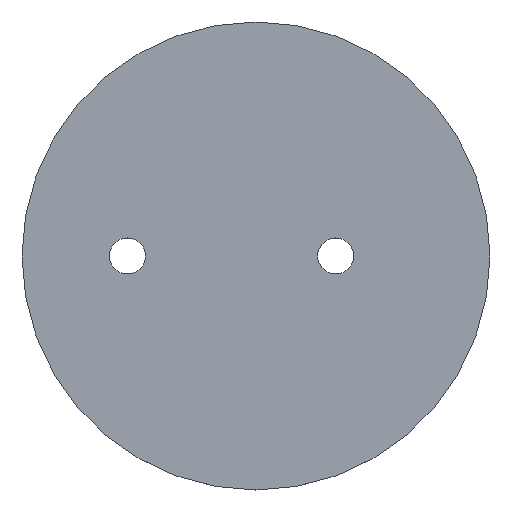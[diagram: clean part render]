
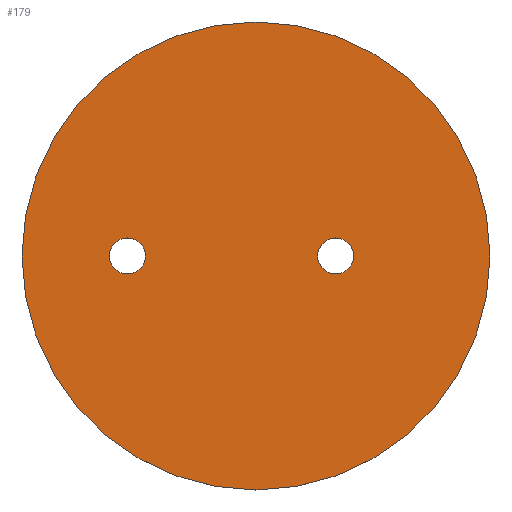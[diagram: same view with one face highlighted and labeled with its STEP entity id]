
A CAD part, top view. The second image highlights one B-rep face of the part: STEP entity #179.
In plain terms, the highlighted planar face has unit normal (0, 0, 1).
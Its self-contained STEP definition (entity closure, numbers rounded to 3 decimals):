
#24 = VERTEX_POINT('',#25);
#25 = CARTESIAN_POINT('',(45.5,0.,288.));
#32 = CYLINDRICAL_SURFACE('',#33,45.5);
#33 = AXIS2_PLACEMENT_3D('',#34,#35,#36);
#34 = CARTESIAN_POINT('',(0.,0.,287.));
#35 = DIRECTION('',(-0.,-0.,-1.));
#36 = DIRECTION('',(1.,0.,0.));
#51 = EDGE_CURVE('',#24,#24,#52,.T.);
#52 = SURFACE_CURVE('',#53,(#58,#65),.PCURVE_S1.);
#53 = CIRCLE('',#54,45.5);
#54 = AXIS2_PLACEMENT_3D('',#55,#56,#57);
#55 = CARTESIAN_POINT('',(0.,0.,288.));
#56 = DIRECTION('',(0.,0.,1.));
#57 = DIRECTION('',(1.,0.,0.));
#58 = PCURVE('',#32,#59);
#59 = DEFINITIONAL_REPRESENTATION('',(#60),#64);
#60 = LINE('',#61,#62);
#61 = CARTESIAN_POINT('',(-0.,-1.));
#62 = VECTOR('',#63,1.);
#63 = DIRECTION('',(-1.,0.));
#64 = ( GEOMETRIC_REPRESENTATION_CONTEXT(2) 
PARAMETRIC_REPRESENTATION_CONTEXT() REPRESENTATION_CONTEXT('2D SPACE',''
  ) );
#65 = PCURVE('',#66,#71);
#66 = PLANE('',#67);
#67 = AXIS2_PLACEMENT_3D('',#68,#69,#70);
#68 = CARTESIAN_POINT('',(0.,0.,288.));
#69 = DIRECTION('',(0.,0.,1.));
#70 = DIRECTION('',(1.,0.,-0.));
#71 = DEFINITIONAL_REPRESENTATION('',(#72),#76);
#72 = CIRCLE('',#73,45.5);
#73 = AXIS2_PLACEMENT_2D('',#74,#75);
#74 = CARTESIAN_POINT('',(0.,0.));
#75 = DIRECTION('',(1.,0.));
#76 = ( GEOMETRIC_REPRESENTATION_CONTEXT(2) 
PARAMETRIC_REPRESENTATION_CONTEXT() REPRESENTATION_CONTEXT('2D SPACE',''
  ) );
#133 = CYLINDRICAL_SURFACE('',#134,3.5);
#134 = AXIS2_PLACEMENT_3D('',#135,#136,#137);
#135 = CARTESIAN_POINT('',(-25.,0.,286.));
#136 = DIRECTION('',(-0.,-0.,-1.));
#137 = DIRECTION('',(1.,0.,0.));
#168 = CYLINDRICAL_SURFACE('',#169,3.5);
#169 = AXIS2_PLACEMENT_3D('',#170,#171,#172);
#170 = CARTESIAN_POINT('',(15.5,0.,286.));
#171 = DIRECTION('',(-0.,-0.,-1.));
#172 = DIRECTION('',(1.,0.,0.));
#179 = ADVANCED_FACE('',(#180,#183,#213),#66,.T.);
#180 = FACE_BOUND('',#181,.T.);
#181 = EDGE_LOOP('',(#182));
#182 = ORIENTED_EDGE('',*,*,#51,.T.);
#183 = FACE_BOUND('',#184,.T.);
#184 = EDGE_LOOP('',(#185));
#185 = ORIENTED_EDGE('',*,*,#186,.T.);
#186 = EDGE_CURVE('',#187,#187,#189,.T.);
#187 = VERTEX_POINT('',#188);
#188 = CARTESIAN_POINT('',(-21.5,0.,288.));
#189 = SURFACE_CURVE('',#190,(#195,#206),.PCURVE_S1.);
#190 = CIRCLE('',#191,3.5);
#191 = AXIS2_PLACEMENT_3D('',#192,#193,#194);
#192 = CARTESIAN_POINT('',(-25.,0.,288.));
#193 = DIRECTION('',(0.,0.,-1.));
#194 = DIRECTION('',(1.,0.,0.));
#195 = PCURVE('',#66,#196);
#196 = DEFINITIONAL_REPRESENTATION('',(#197),#205);
#197 = ( BOUNDED_CURVE() B_SPLINE_CURVE(2,(#198,#199,#200,#201,#202,#203
,#204),.UNSPECIFIED.,.T.,.F.) B_SPLINE_CURVE_WITH_KNOTS((1,2,2,2,2,1),(
    -2.094,0.,2.094,4.189,6.283,
8.378),.UNSPECIFIED.) CURVE() GEOMETRIC_REPRESENTATION_ITEM() 
RATIONAL_B_SPLINE_CURVE((1.,0.5,1.,0.5,1.,0.5,1.)) REPRESENTATION_ITEM(
  '') );
#198 = CARTESIAN_POINT('',(-21.5,0.));
#199 = CARTESIAN_POINT('',(-21.5,-6.062));
#200 = CARTESIAN_POINT('',(-26.75,-3.031));
#201 = CARTESIAN_POINT('',(-32.,0.));
#202 = CARTESIAN_POINT('',(-26.75,3.031));
#203 = CARTESIAN_POINT('',(-21.5,6.062));
#204 = CARTESIAN_POINT('',(-21.5,0.));
#205 = ( GEOMETRIC_REPRESENTATION_CONTEXT(2) 
PARAMETRIC_REPRESENTATION_CONTEXT() REPRESENTATION_CONTEXT('2D SPACE',''
  ) );
#206 = PCURVE('',#133,#207);
#207 = DEFINITIONAL_REPRESENTATION('',(#208),#212);
#208 = LINE('',#209,#210);
#209 = CARTESIAN_POINT('',(-6.283,-2.));
#210 = VECTOR('',#211,1.);
#211 = DIRECTION('',(1.,-0.));
#212 = ( GEOMETRIC_REPRESENTATION_CONTEXT(2) 
PARAMETRIC_REPRESENTATION_CONTEXT() REPRESENTATION_CONTEXT('2D SPACE',''
  ) );
#213 = FACE_BOUND('',#214,.T.);
#214 = EDGE_LOOP('',(#215));
#215 = ORIENTED_EDGE('',*,*,#216,.T.);
#216 = EDGE_CURVE('',#217,#217,#219,.T.);
#217 = VERTEX_POINT('',#218);
#218 = CARTESIAN_POINT('',(19.,0.,288.));
#219 = SURFACE_CURVE('',#220,(#225,#236),.PCURVE_S1.);
#220 = CIRCLE('',#221,3.5);
#221 = AXIS2_PLACEMENT_3D('',#222,#223,#224);
#222 = CARTESIAN_POINT('',(15.5,0.,288.));
#223 = DIRECTION('',(0.,0.,-1.));
#224 = DIRECTION('',(1.,0.,0.));
#225 = PCURVE('',#66,#226);
#226 = DEFINITIONAL_REPRESENTATION('',(#227),#235);
#227 = ( BOUNDED_CURVE() B_SPLINE_CURVE(2,(#228,#229,#230,#231,#232,#233
,#234),.UNSPECIFIED.,.T.,.F.) B_SPLINE_CURVE_WITH_KNOTS((1,2,2,2,2,1),(
    -2.094,0.,2.094,4.189,6.283,
8.378),.UNSPECIFIED.) CURVE() GEOMETRIC_REPRESENTATION_ITEM() 
RATIONAL_B_SPLINE_CURVE((1.,0.5,1.,0.5,1.,0.5,1.)) REPRESENTATION_ITEM(
  '') );
#228 = CARTESIAN_POINT('',(19.,0.));
#229 = CARTESIAN_POINT('',(19.,-6.062));
#230 = CARTESIAN_POINT('',(13.75,-3.031));
#231 = CARTESIAN_POINT('',(8.5,0.));
#232 = CARTESIAN_POINT('',(13.75,3.031));
#233 = CARTESIAN_POINT('',(19.,6.062));
#234 = CARTESIAN_POINT('',(19.,0.));
#235 = ( GEOMETRIC_REPRESENTATION_CONTEXT(2) 
PARAMETRIC_REPRESENTATION_CONTEXT() REPRESENTATION_CONTEXT('2D SPACE',''
  ) );
#236 = PCURVE('',#168,#237);
#237 = DEFINITIONAL_REPRESENTATION('',(#238),#242);
#238 = LINE('',#239,#240);
#239 = CARTESIAN_POINT('',(-6.283,-2.));
#240 = VECTOR('',#241,1.);
#241 = DIRECTION('',(1.,-0.));
#242 = ( GEOMETRIC_REPRESENTATION_CONTEXT(2) 
PARAMETRIC_REPRESENTATION_CONTEXT() REPRESENTATION_CONTEXT('2D SPACE',''
  ) );
